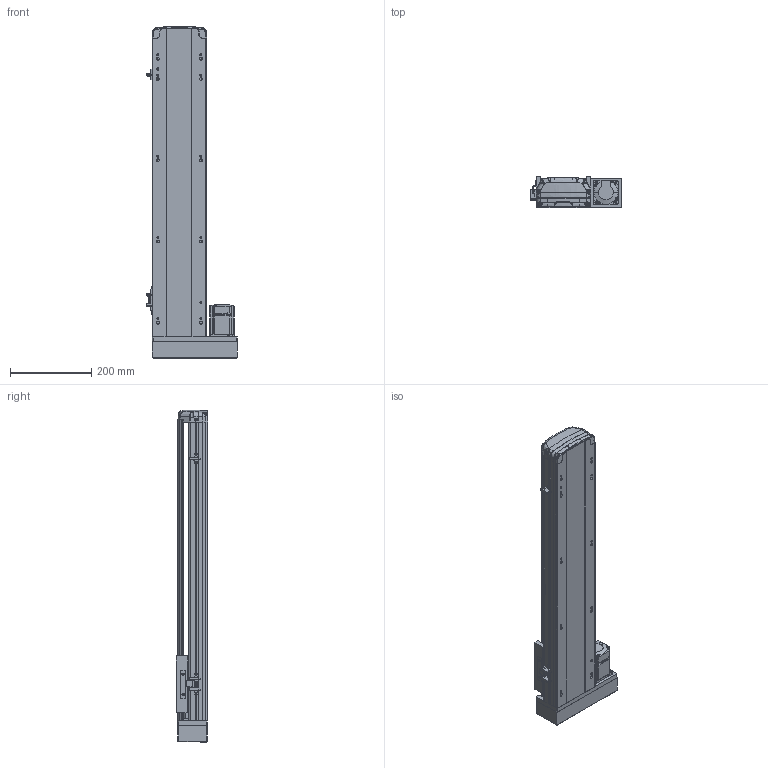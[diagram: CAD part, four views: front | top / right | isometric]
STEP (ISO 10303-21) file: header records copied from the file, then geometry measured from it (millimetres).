
FILE_DESCRIPTION (( 'STEP AP214' ), '1' );
FILE_NAME ('RTH14-XX-550-R-M20-C4.STEP', '2025-10-24T09:54:21', ( 'Microsoft' ), ( 'Microsoft' ), 'SwSTEP 2.0', 'SolidWorks 2018', '' );
FILE_SCHEMA (( 'AUTOMOTIVE_DESIGN' ));
Length unit declared in the file: millimetre
Products named in the file (10): N_MSMD022P1AA_200W^RTH14-XX-XX-R-M20-C4; N_RTH13-L-008-P20 萇儂啣酘蛌殏^RTH14-XX-XX-R-M20-C4; RTH14-XX-550-R-M20-C4; N_RTH14-M-007P奻裔^RTH14-XX-XX-R-M20-C4; N_OMRON EE-SX672 传感器^RTH14-XX-XX-R-M20-C4; N_RTH13-L-012感应片（外置）^RTH14-XX-XX-R-M20-C4; N_RTH14-M-011P菁釱^RTH14-XX-XX-R-M20-C4; N_RTH13-L-018 裔赽^RTH14-XX-XX-R-M20-C4; N_RTH14-R-004-SFSR16賑釱^RTH14-XX-XX-R-M20-C4; N_RTH14-GY-001P^RTH14-XX-XX-R-M20-C4
Assembly tree (11 placements, depth 2):
  RTH14-XX-550-R-M20-C4
    N_RTH14-M-011P菁釱^RTH14-XX-XX-R-M20-C4
    N_RTH14-M-007P奻裔^RTH14-XX-XX-R-M20-C4
    N_MSMD022P1AA_200W^RTH14-XX-XX-R-M20-C4
    N_RTH13-L-008-P20 萇儂啣酘蛌殏^RTH14-XX-XX-R-M20-C4
    N_RTH13-L-018 裔赽^RTH14-XX-XX-R-M20-C4
    N_RTH13-L-012感应片（外置）^RTH14-XX-XX-R-M20-C4
    N_OMRON EE-SX672 传感器^RTH14-XX-XX-R-M20-C4  x3
    N_RTH14-R-004-SFSR16賑釱^RTH14-XX-XX-R-M20-C4
    N_RTH14-GY-001P^RTH14-XX-XX-R-M20-C4
Bounding box: 224 x 78.03 x 817.73 mm (x, y, z)
Volume: 3737370.1 mm3; surface area: 888271.5 mm2
Topology: 10 solids, 12 shells, 1869 faces, 5230 edges, 3429 vertices
Faces by surface type: plane 989, cylinder 485, bspline 346, cone 45, torus 4
Entity records: 57129 total; most frequent: CARTESIAN_POINT 23093, ORIENTED_EDGE 7517, DIRECTION 6020, EDGE_CURVE 3764, VERTEX_POINT 2465, LINE 2154, VECTOR 2154, AXIS2_PLACEMENT_3D 1933
